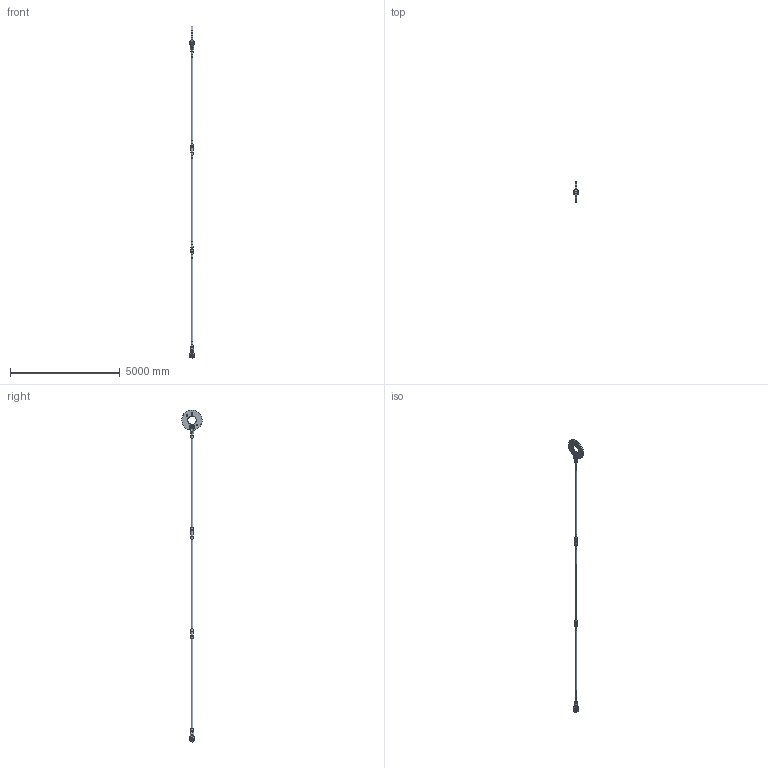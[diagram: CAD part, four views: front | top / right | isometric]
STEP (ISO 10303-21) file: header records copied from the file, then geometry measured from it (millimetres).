
FILE_DESCRIPTION(/* description */ (''),/* implementation_level */ '2;1');
FILE_NAME(/* name */ 'C:\Vault-WS\Anker\Werksnorm\Hochbau\ASDO-System\ASDO-S\System Komplett\Step\M 076.stp',/* time_stamp */ '2014-01-30T09:23:51+01:00',/* author */ ('ritgen'),/* organization */ (''),/* preprocessor_version */ 'ST-DEVELOPER v15.2',/* originating_system */ 'Autodesk Inventor 2014',/* authorisation */ '');
FILE_SCHEMA (('AUTOMOTIVE_DESIGN { 1 0 10303 214 3 1 1 }'));
Length unit declared in the file: millimetre
Products named in the file (11): ASDO-005767; ASDO-014272; ASDO-014325; DIN 7991 - M12x30 - 8.8; ASDO-013941; ASDO-001703; ASDO-001344; ASDO-001460; ASDO-006360; ASDO-014035; ASDO-006359
Bounding box: 192.01 x 929.11 x 15136.49 mm (x, y, z)
Volume: 116765724.1 mm3; surface area: 6539032.3 mm2
Topology: 24 solids, 24 shells, 497 faces, 1054 edges, 642 vertices
Faces by surface type: plane 168, bspline 144, cylinder 85, cone 54, torus 46
Full cylindrical faces by diameter (mm): 9 x18, 10.106 x4, 12 x4, 14 x4, 24 x4, 69.505 x11, 76 x5, 78 x10, 80 x7, 109.5 x6, 110 x4, 121 x2, 380 x1, 930 x1
Entity records: 13499 total; most frequent: CARTESIAN_POINT 9229, DIRECTION 774, ORIENTED_EDGE 760, EDGE_CURVE 380, AXIS2_PLACEMENT_3D 355, EDGE_LOOP 320, VERTEX_POINT 266, ADVANCED_FACE 214
